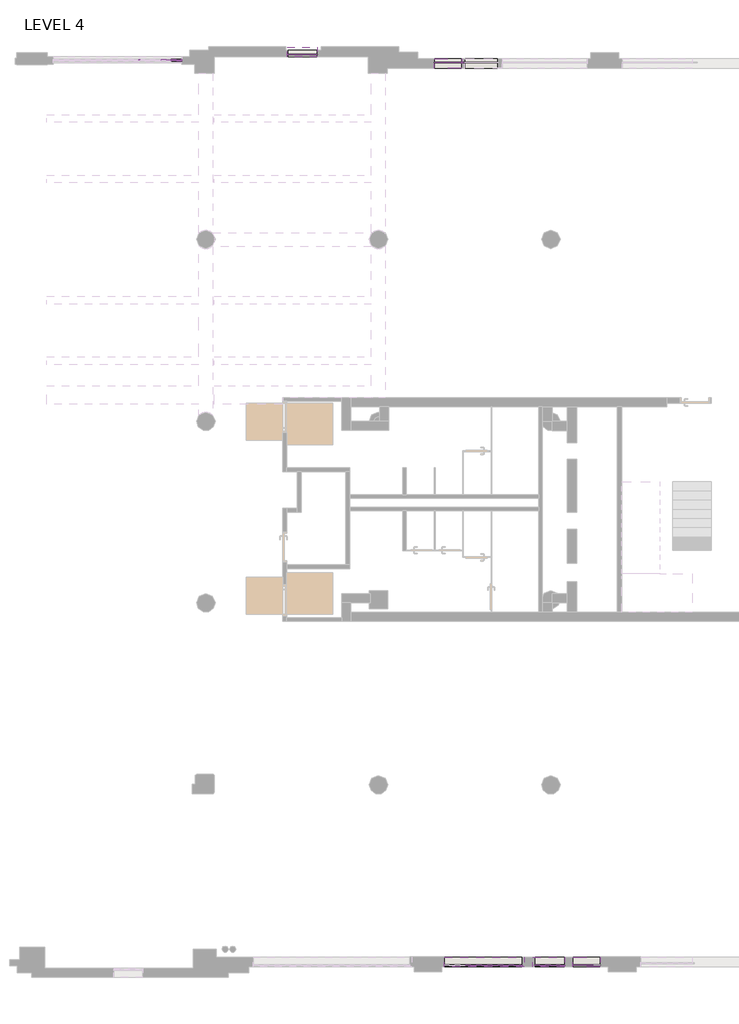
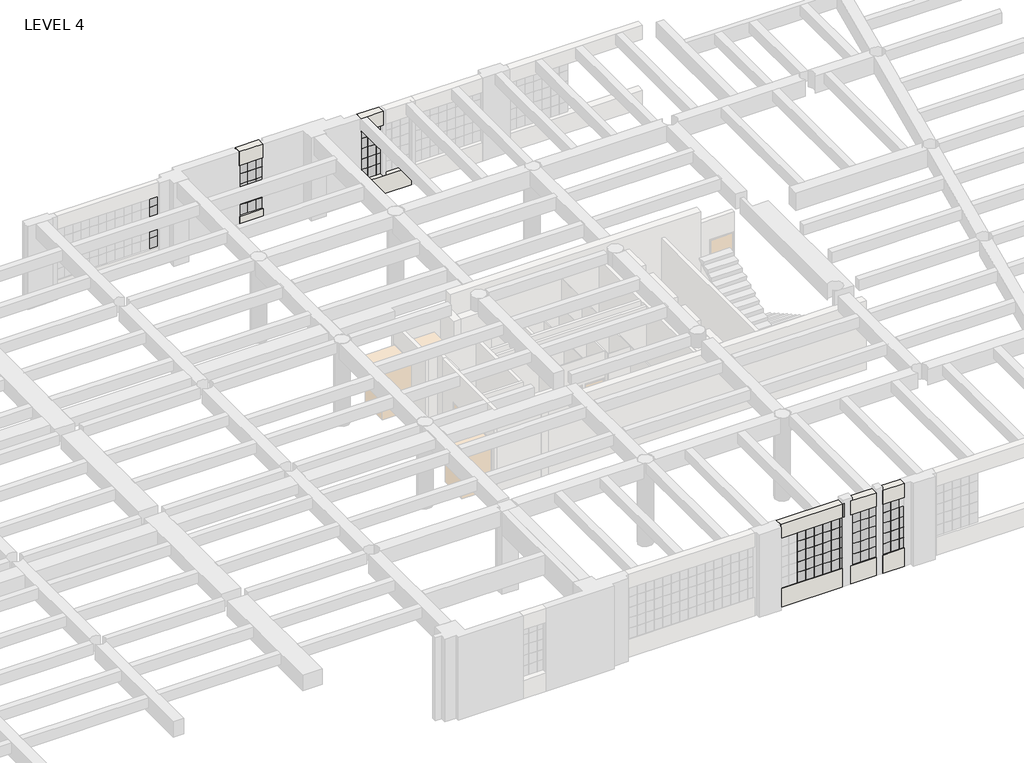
# One storey, part 15 of 26: 94 plates, 24 members, 10 walls.
"""IFC4 building model written with IfcOpenShell, lengths in millimetres."""

from ifc_helpers import new_model, si_unit, frame, origin, origin_with_axes, place, context, project, spatial, polyline, outline, extrude, faceted_brep, transform, mapped, element, save
from components import member_038dcf1c, member_0e6c94ff, member_d9fec558, member_3d4b608b, member_3c10d71f, member_653bb31e, member_5debf6c2, member_223704e7, system_panel_glazed_ab35d819, system_panel_glazed_fc65e113, system_panel_glazed_c5f20988, system_panel_glazed_656c6057, system_panel_glazed_f37bcc86, system_panel_glazed_3b610fd6, system_panel_glazed_d2b05c01, system_panel_glazed_cec7f4a6, system_panel_glazed_418eb6cd, system_panel_glazed_dc7be1f0, system_panel_glazed_b93c52a1, system_panel_glazed_71b59b5f, system_panel_glazed_0f17cebf, system_panel_glazed_44deb75c, system_panel_glazed_e3287ea6

model = new_model("IFC4")

# Units and contexts
model_context = context("Model", 3, world=origin())
ifc_project = project(units=[si_unit("LENGTHUNIT", "METRE", prefix="MILLI")], contexts=[model_context])

# Site, building, storey
site = spatial("IfcSite", under=ifc_project)
building = spatial("IfcBuilding", under=site)
storey = spatial("IfcBuildingStorey", under=building, Name="LEVEL 4", Elevation=0.0)

# Members
placement = place(None, origin())
member_shape = member_038dcf1c(model_context)
element("IfcMember", 1, ObjectType="Circular Mullion : 1 1/4\" Square", at=placement, inside=storey, context=model_context, shape_type="MappedRepresentation", body=[
    mapped(member_shape, transform((-9539.3085473, 117287.443307, 1257.3), x_axis=(1.0, 0.0, 0.0), y_axis=(0.0, -1.0, 0.0), z_axis=(0.0, 0.0, -1.0))),
])
element("IfcMember", 2, ObjectType="Circular Mullion : 1 1/4\" Square", at=placement, inside=storey, context=model_context, shape_type="MappedRepresentation", body=[
    mapped(member_shape, transform((-9539.3085473, 117287.443307, 1714.5), x_axis=(1.0, 0.0, 0.0), y_axis=(0.0, -1.0, 0.0), z_axis=(0.0, 0.0, -1.0))),
])
element("IfcMember", 3, ObjectType="Circular Mullion : 1 1/4\" Square", at=placement, inside=storey, context=model_context, shape_type="MappedRepresentation", body=[
    mapped(member_shape, transform((-9539.3085473, 117287.443307, 2171.7), x_axis=(1.0, 0.0, 0.0), y_axis=(0.0, -1.0, 0.0), z_axis=(0.0, 0.0, -1.0))),
])
element("IfcMember", 4, ObjectType="Circular Mullion : 1 1/4\" Square", at=placement, inside=storey, context=model_context, shape_type="MappedRepresentation", body=[
    mapped(member_shape, transform((-9539.3085473, 117287.443307, 800.1), x_axis=(1.0, 0.0, 0.0), y_axis=(0.0, -1.0, 0.0), z_axis=(0.0, 0.0, -1.0))),
])
member_2_shape = member_0e6c94ff(model_context)
element("IfcMember", 5, ObjectType="Circular Mullion : 1 1/4\" Square", at=placement, inside=storey, context=model_context, shape_type="MappedRepresentation", body=[
    mapped(member_2_shape, transform((-9539.3085473, 117287.443307, 2628.9), x_axis=(1.0, 0.0, 0.0), y_axis=(0.0, -1.0, 0.0), z_axis=(0.0, 0.0, -1.0))),
])
member_3_shape = member_d9fec558(model_context)
element("IfcMember", 6, ObjectType="Circular Mullion : 1 1/4\" Square", at=placement, inside=storey, context=model_context, shape_type="MappedRepresentation", body=[
    mapped(member_3_shape, transform((-9882.208547, 117287.443307, 2628.9), x_axis=(1.0, 0.0, 0.0), y_axis=(0.0, -1.0, 0.0), z_axis=(0.0, 0.0, -1.0))),
])
element("IfcMember", 7, ObjectType="Circular Mullion : 1 1/4\" Square", at=placement, inside=storey, context=model_context, shape_type="MappedRepresentation", body=[
    mapped(member_3_shape, transform((-10949.008547, 117287.443307, 2628.9), x_axis=(1.0, 0.0, 0.0), y_axis=(0.0, -1.0, 0.0), z_axis=(0.0, 0.0, -1.0))),
])
member_4_shape = member_3d4b608b(model_context)
element("IfcMember", 8, ObjectType="Circular Mullion : 1 1/4\" Square", at=placement, inside=storey, context=model_context, shape_type="MappedRepresentation", body=[
    mapped(member_4_shape, transform((-9882.208547, 117287.443307, 1257.3), x_axis=(1.0, 0.0, 0.0), y_axis=(0.0, -1.0, 0.0), z_axis=(0.0, 0.0, -1.0))),
])
element("IfcMember", 9, ObjectType="Circular Mullion : 1 1/4\" Square", at=placement, inside=storey, context=model_context, shape_type="MappedRepresentation", body=[
    mapped(member_4_shape, transform((-9882.208547, 117287.443307, 1714.5), x_axis=(1.0, 0.0, 0.0), y_axis=(0.0, -1.0, 0.0), z_axis=(0.0, 0.0, -1.0))),
])
element("IfcMember", 10, ObjectType="Circular Mullion : 1 1/4\" Square", at=placement, inside=storey, context=model_context, shape_type="MappedRepresentation", body=[
    mapped(member_4_shape, transform((-9882.208547, 117287.443307, 2171.7), x_axis=(1.0, 0.0, 0.0), y_axis=(0.0, -1.0, 0.0), z_axis=(0.0, 0.0, -1.0))),
])
element("IfcMember", 11, ObjectType="Circular Mullion : 1 1/4\" Square", at=placement, inside=storey, context=model_context, shape_type="MappedRepresentation", body=[
    mapped(member_4_shape, transform((-10949.008547, 117287.443307, 1714.5), x_axis=(1.0, 0.0, 0.0), y_axis=(0.0, -1.0, 0.0), z_axis=(0.0, 0.0, -1.0))),
])
element("IfcMember", 12, ObjectType="Circular Mullion : 1 1/4\" Square", at=placement, inside=storey, context=model_context, shape_type="MappedRepresentation", body=[
    mapped(member_4_shape, transform((-10949.008547, 117287.443307, 2171.7), x_axis=(1.0, 0.0, 0.0), y_axis=(0.0, -1.0, 0.0), z_axis=(0.0, 0.0, -1.0))),
])
element("IfcMember", 13, ObjectType="Circular Mullion : 1 1/4\" Square", at=placement, inside=storey, context=model_context, shape_type="MappedRepresentation", body=[
    mapped(member_4_shape, transform((-9882.208547, 117287.443307, 800.1), x_axis=(1.0, 0.0, 0.0), y_axis=(0.0, -1.0, 0.0), z_axis=(0.0, 0.0, -1.0))),
])
member_5_shape = member_3c10d71f(model_context)
element("IfcMember", 14, ObjectType="Circular Mullion : 1 1/4\" Square", at=placement, inside=storey, context=model_context, shape_type="MappedRepresentation", body=[
    mapped(member_5_shape, transform((-9894.908547, 117287.443307, 3060.7), x_axis=(0.0, 0.0, 1.0), y_axis=(0.0, -1.0, 0.0), z_axis=(1.0, 0.0, 0.0))),
])
member_6_shape = member_653bb31e(model_context)
element("IfcMember", 15, ObjectType="Circular Mullion : 1 1/4\" Square", at=placement, inside=storey, context=model_context, shape_type="MappedRepresentation", body=[
    mapped(member_6_shape, transform((-9894.908547, 117287.443307, 1257.3), x_axis=(0.0, 0.0, 1.0), y_axis=(0.0, -1.0, 0.0), z_axis=(1.0, 0.0, 0.0))),
])
element("IfcMember", 16, ObjectType="Circular Mullion : 1 1/4\" Square", at=placement, inside=storey, context=model_context, shape_type="MappedRepresentation", body=[
    mapped(member_6_shape, transform((-9894.908547, 117287.443307, 1714.5), x_axis=(0.0, 0.0, 1.0), y_axis=(0.0, -1.0, 0.0), z_axis=(1.0, 0.0, 0.0))),
])
element("IfcMember", 17, ObjectType="Circular Mullion : 1 1/4\" Square", at=placement, inside=storey, context=model_context, shape_type="MappedRepresentation", body=[
    mapped(member_6_shape, transform((-9894.908547, 117287.443307, 2171.7), x_axis=(0.0, 0.0, 1.0), y_axis=(0.0, -1.0, 0.0), z_axis=(1.0, 0.0, 0.0))),
])
element("IfcMember", 18, ObjectType="Circular Mullion : 1 1/4\" Square", at=placement, inside=storey, context=model_context, shape_type="MappedRepresentation", body=[
    mapped(member_6_shape, transform((-9894.908547, 117287.443307, 2628.9), x_axis=(0.0, 0.0, 1.0), y_axis=(0.0, -1.0, 0.0), z_axis=(1.0, 0.0, 0.0))),
])
member_7_shape = member_5debf6c2(model_context)
element("IfcMember", 19, ObjectType="Circular Mullion : 1 1/4\" Square", at=placement, inside=storey, context=model_context, shape_type="MappedRepresentation", body=[
    mapped(member_7_shape, transform((-9564.7085473, 117287.443307, 3060.7), x_axis=(0.0, 0.0, 1.0), y_axis=(0.0, -1.0, 0.0), z_axis=(1.0, 0.0, 0.0))),
])
member_8_shape = member_223704e7(model_context)
element("IfcMember", 20, ObjectType="Circular Mullion : 1 1/4\" Square", at=placement, inside=storey, context=model_context, shape_type="MappedRepresentation", body=[
    mapped(member_8_shape, transform((-9564.7085473, 117287.443307, 1257.3), x_axis=(0.0, 0.0, 1.0), y_axis=(0.0, -1.0, 0.0), z_axis=(1.0, 0.0, 0.0))),
])
element("IfcMember", 21, ObjectType="Circular Mullion : 1 1/4\" Square", at=placement, inside=storey, context=model_context, shape_type="MappedRepresentation", body=[
    mapped(member_8_shape, transform((-9564.7085473, 117287.443307, 1714.5), x_axis=(0.0, 0.0, 1.0), y_axis=(0.0, -1.0, 0.0), z_axis=(1.0, 0.0, 0.0))),
])
element("IfcMember", 22, ObjectType="Circular Mullion : 1 1/4\" Square", at=placement, inside=storey, context=model_context, shape_type="MappedRepresentation", body=[
    mapped(member_8_shape, transform((-9564.7085473, 117287.443307, 2171.7), x_axis=(0.0, 0.0, 1.0), y_axis=(0.0, -1.0, 0.0), z_axis=(1.0, 0.0, 0.0))),
])
element("IfcMember", 23, ObjectType="Circular Mullion : 1 1/4\" Square", at=placement, inside=storey, context=model_context, shape_type="MappedRepresentation", body=[
    mapped(member_8_shape, transform((-9564.7085473, 117287.443307, 2628.9), x_axis=(0.0, 0.0, 1.0), y_axis=(0.0, -1.0, 0.0), z_axis=(1.0, 0.0, 0.0))),
])
element("IfcMember", 24, ObjectType="Circular Mullion : 1 1/4\" Square", at=placement, inside=storey, context=model_context, shape_type="MappedRepresentation", body=[
    mapped(member_7_shape, transform((-9869.508547, 117287.443307, 800.1), x_axis=(0.0, 0.0, -1.0), y_axis=(0.0, -1.0, 0.0), z_axis=(-1.0, 0.0, 0.0))),
])

# Plates
system_panel_glazed_shape = system_panel_glazed_ab35d819(model_context)
element("IfcPlate", 25, ObjectType="System Panel : Glazed", at=placement, inside=storey, context=model_context, shape_type="MappedRepresentation", body=[
    mapped(system_panel_glazed_shape, transform((-5856.3085471, 117490.643307, 800.1), x_axis=(1.0, 0.0, 0.0), y_axis=(0.0, 1.0, 0.0), z_axis=(0.0, 0.0, 1.0))),
])
element("IfcPlate", 26, ObjectType="System Panel : Glazed", at=placement, inside=storey, context=model_context, shape_type="MappedRepresentation", body=[
    mapped(system_panel_glazed_shape, transform((2328.8414529, 87317.5397286, 800.1), x_axis=(1.0, 0.0, 0.0), y_axis=(0.0, 1.0, 0.0), z_axis=(0.0, 0.0, 1.0))),
])
element("IfcPlate", 27, ObjectType="System Panel : Glazed", at=placement, inside=storey, context=model_context, shape_type="MappedRepresentation", body=[
    mapped(system_panel_glazed_shape, transform((3598.8414529, 87323.8897286, 800.1), x_axis=(1.0, 0.0, 0.0), y_axis=(0.0, 1.0, 0.0), z_axis=(0.0, 0.0, 1.0))),
])
element("IfcPlate", 28, ObjectType="System Panel : Glazed", at=placement, inside=storey, context=model_context, shape_type="MappedRepresentation", body=[
    mapped(system_panel_glazed_shape, transform((-5500.708547, 117490.643307, 800.1), x_axis=(1.0, 0.0, 0.0), y_axis=(0.0, 1.0, 0.0), z_axis=(0.0, 0.0, 1.0))),
])
element("IfcPlate", 29, ObjectType="System Panel : Glazed", at=placement, inside=storey, context=model_context, shape_type="MappedRepresentation", body=[
    mapped(system_panel_glazed_shape, transform((-5856.3085471, 117490.643307, 1257.3), x_axis=(1.0, 0.0, 0.0), y_axis=(0.0, 1.0, 0.0), z_axis=(0.0, 0.0, 1.0))),
])
element("IfcPlate", 30, ObjectType="System Panel : Glazed", at=placement, inside=storey, context=model_context, shape_type="MappedRepresentation", body=[
    mapped(system_panel_glazed_shape, transform((-5500.708547, 117490.643307, 1257.3), x_axis=(1.0, 0.0, 0.0), y_axis=(0.0, 1.0, 0.0), z_axis=(0.0, 0.0, 1.0))),
])
element("IfcPlate", 31, ObjectType="System Panel : Glazed", at=placement, inside=storey, context=model_context, shape_type="MappedRepresentation", body=[
    mapped(system_panel_glazed_shape, transform((-5856.3085471, 117490.643307, 1714.5), x_axis=(1.0, 0.0, 0.0), y_axis=(0.0, 1.0, 0.0), z_axis=(0.0, 0.0, 1.0))),
])
element("IfcPlate", 32, ObjectType="System Panel : Glazed", at=placement, inside=storey, context=model_context, shape_type="MappedRepresentation", body=[
    mapped(system_panel_glazed_shape, transform((-5500.708547, 117490.643307, 1714.5), x_axis=(1.0, 0.0, 0.0), y_axis=(0.0, 1.0, 0.0), z_axis=(0.0, 0.0, 1.0))),
])
element("IfcPlate", 33, ObjectType="System Panel : Glazed", at=placement, inside=storey, context=model_context, shape_type="MappedRepresentation", body=[
    mapped(system_panel_glazed_shape, transform((-5856.3085471, 117490.643307, 2171.7), x_axis=(1.0, 0.0, 0.0), y_axis=(0.0, 1.0, 0.0), z_axis=(0.0, 0.0, 1.0))),
])
element("IfcPlate", 34, ObjectType="System Panel : Glazed", at=placement, inside=storey, context=model_context, shape_type="MappedRepresentation", body=[
    mapped(system_panel_glazed_shape, transform((-5500.708547, 117490.643307, 2171.7), x_axis=(1.0, 0.0, 0.0), y_axis=(0.0, 1.0, 0.0), z_axis=(0.0, 0.0, 1.0))),
])
element("IfcPlate", 35, ObjectType="System Panel : Glazed", at=placement, inside=storey, context=model_context, shape_type="MappedRepresentation", body=[
    mapped(system_panel_glazed_shape, transform((1464.8230627, 87317.5397286, 800.1), x_axis=(1.0, 0.0, 0.0), y_axis=(0.0, 1.0, 0.0), z_axis=(0.0, 0.0, 1.0))),
])
element("IfcPlate", 36, ObjectType="System Panel : Glazed", at=placement, inside=storey, context=model_context, shape_type="MappedRepresentation", body=[
    mapped(system_panel_glazed_shape, transform((1109.2230627, 87317.5397286, 800.1), x_axis=(1.0, 0.0, 0.0), y_axis=(0.0, 1.0, 0.0), z_axis=(0.0, 0.0, 1.0))),
])
element("IfcPlate", 37, ObjectType="System Panel : Glazed", at=placement, inside=storey, context=model_context, shape_type="MappedRepresentation", body=[
    mapped(system_panel_glazed_shape, transform((753.6230627, 87317.5397286, 800.1), x_axis=(1.0, 0.0, 0.0), y_axis=(0.0, 1.0, 0.0), z_axis=(0.0, 0.0, 1.0))),
])
element("IfcPlate", 38, ObjectType="System Panel : Glazed", at=placement, inside=storey, context=model_context, shape_type="MappedRepresentation", body=[
    mapped(system_panel_glazed_shape, transform((398.0230627, 87317.5397286, 800.1), x_axis=(1.0, 0.0, 0.0), y_axis=(0.0, 1.0, 0.0), z_axis=(0.0, 0.0, 1.0))),
])
element("IfcPlate", 39, ObjectType="System Panel : Glazed", at=placement, inside=storey, context=model_context, shape_type="MappedRepresentation", body=[
    mapped(system_panel_glazed_shape, transform((1464.8230627, 87317.5397286, 1257.3), x_axis=(1.0, 0.0, 0.0), y_axis=(0.0, 1.0, 0.0), z_axis=(0.0, 0.0, 1.0))),
])
element("IfcPlate", 40, ObjectType="System Panel : Glazed", at=placement, inside=storey, context=model_context, shape_type="MappedRepresentation", body=[
    mapped(system_panel_glazed_shape, transform((1109.2230627, 87317.5397286, 1257.3), x_axis=(1.0, 0.0, 0.0), y_axis=(0.0, 1.0, 0.0), z_axis=(0.0, 0.0, 1.0))),
])
element("IfcPlate", 41, ObjectType="System Panel : Glazed", at=placement, inside=storey, context=model_context, shape_type="MappedRepresentation", body=[
    mapped(system_panel_glazed_shape, transform((753.6230627, 87317.5397286, 1257.3), x_axis=(1.0, 0.0, 0.0), y_axis=(0.0, 1.0, 0.0), z_axis=(0.0, 0.0, 1.0))),
])
element("IfcPlate", 42, ObjectType="System Panel : Glazed", at=placement, inside=storey, context=model_context, shape_type="MappedRepresentation", body=[
    mapped(system_panel_glazed_shape, transform((398.0230627, 87317.5397286, 1257.3), x_axis=(1.0, 0.0, 0.0), y_axis=(0.0, 1.0, 0.0), z_axis=(0.0, 0.0, 1.0))),
])
element("IfcPlate", 43, ObjectType="System Panel : Glazed", at=placement, inside=storey, context=model_context, shape_type="MappedRepresentation", body=[
    mapped(system_panel_glazed_shape, transform((1464.8230627, 87317.5397286, 1714.5), x_axis=(1.0, 0.0, 0.0), y_axis=(0.0, 1.0, 0.0), z_axis=(0.0, 0.0, 1.0))),
])
element("IfcPlate", 44, ObjectType="System Panel : Glazed", at=placement, inside=storey, context=model_context, shape_type="MappedRepresentation", body=[
    mapped(system_panel_glazed_shape, transform((1109.2230627, 87317.5397286, 1714.5), x_axis=(1.0, 0.0, 0.0), y_axis=(0.0, 1.0, 0.0), z_axis=(0.0, 0.0, 1.0))),
])
element("IfcPlate", 45, ObjectType="System Panel : Glazed", at=placement, inside=storey, context=model_context, shape_type="MappedRepresentation", body=[
    mapped(system_panel_glazed_shape, transform((753.6230627, 87317.5397286, 1714.5), x_axis=(1.0, 0.0, 0.0), y_axis=(0.0, 1.0, 0.0), z_axis=(0.0, 0.0, 1.0))),
])
element("IfcPlate", 46, ObjectType="System Panel : Glazed", at=placement, inside=storey, context=model_context, shape_type="MappedRepresentation", body=[
    mapped(system_panel_glazed_shape, transform((398.0230627, 87317.5397286, 1714.5), x_axis=(1.0, 0.0, 0.0), y_axis=(0.0, 1.0, 0.0), z_axis=(0.0, 0.0, 1.0))),
])
element("IfcPlate", 47, ObjectType="System Panel : Glazed", at=placement, inside=storey, context=model_context, shape_type="MappedRepresentation", body=[
    mapped(system_panel_glazed_shape, transform((1464.8230627, 87317.5397286, 2171.7), x_axis=(1.0, 0.0, 0.0), y_axis=(0.0, 1.0, 0.0), z_axis=(0.0, 0.0, 1.0))),
])
element("IfcPlate", 48, ObjectType="System Panel : Glazed", at=placement, inside=storey, context=model_context, shape_type="MappedRepresentation", body=[
    mapped(system_panel_glazed_shape, transform((1109.2230627, 87317.5397286, 2171.7), x_axis=(1.0, 0.0, 0.0), y_axis=(0.0, 1.0, 0.0), z_axis=(0.0, 0.0, 1.0))),
])
element("IfcPlate", 49, ObjectType="System Panel : Glazed", at=placement, inside=storey, context=model_context, shape_type="MappedRepresentation", body=[
    mapped(system_panel_glazed_shape, transform((753.6230627, 87317.5397286, 2171.7), x_axis=(1.0, 0.0, 0.0), y_axis=(0.0, 1.0, 0.0), z_axis=(0.0, 0.0, 1.0))),
])
element("IfcPlate", 50, ObjectType="System Panel : Glazed", at=placement, inside=storey, context=model_context, shape_type="MappedRepresentation", body=[
    mapped(system_panel_glazed_shape, transform((398.0230627, 87317.5397286, 2171.7), x_axis=(1.0, 0.0, 0.0), y_axis=(0.0, 1.0, 0.0), z_axis=(0.0, 0.0, 1.0))),
])
element("IfcPlate", 51, ObjectType="System Panel : Glazed", at=placement, inside=storey, context=model_context, shape_type="MappedRepresentation", body=[
    mapped(system_panel_glazed_shape, transform((2684.441453, 87317.5397286, 800.1), x_axis=(1.0, 0.0, 0.0), y_axis=(0.0, 1.0, 0.0), z_axis=(0.0, 0.0, 1.0))),
])
element("IfcPlate", 52, ObjectType="System Panel : Glazed", at=placement, inside=storey, context=model_context, shape_type="MappedRepresentation", body=[
    mapped(system_panel_glazed_shape, transform((2328.8414529, 87317.5397286, 1257.3), x_axis=(1.0, 0.0, 0.0), y_axis=(0.0, 1.0, 0.0), z_axis=(0.0, 0.0, 1.0))),
])
element("IfcPlate", 53, ObjectType="System Panel : Glazed", at=placement, inside=storey, context=model_context, shape_type="MappedRepresentation", body=[
    mapped(system_panel_glazed_shape, transform((2684.441453, 87317.5397286, 1257.3), x_axis=(1.0, 0.0, 0.0), y_axis=(0.0, 1.0, 0.0), z_axis=(0.0, 0.0, 1.0))),
])
element("IfcPlate", 54, ObjectType="System Panel : Glazed", at=placement, inside=storey, context=model_context, shape_type="MappedRepresentation", body=[
    mapped(system_panel_glazed_shape, transform((2328.8414529, 87317.5397286, 1714.5), x_axis=(1.0, 0.0, 0.0), y_axis=(0.0, 1.0, 0.0), z_axis=(0.0, 0.0, 1.0))),
])
element("IfcPlate", 55, ObjectType="System Panel : Glazed", at=placement, inside=storey, context=model_context, shape_type="MappedRepresentation", body=[
    mapped(system_panel_glazed_shape, transform((2684.441453, 87317.5397286, 1714.5), x_axis=(1.0, 0.0, 0.0), y_axis=(0.0, 1.0, 0.0), z_axis=(0.0, 0.0, 1.0))),
])
element("IfcPlate", 56, ObjectType="System Panel : Glazed", at=placement, inside=storey, context=model_context, shape_type="MappedRepresentation", body=[
    mapped(system_panel_glazed_shape, transform((2328.8414529, 87317.5397286, 2171.7), x_axis=(1.0, 0.0, 0.0), y_axis=(0.0, 1.0, 0.0), z_axis=(0.0, 0.0, 1.0))),
])
element("IfcPlate", 57, ObjectType="System Panel : Glazed", at=placement, inside=storey, context=model_context, shape_type="MappedRepresentation", body=[
    mapped(system_panel_glazed_shape, transform((2684.441453, 87317.5397286, 2171.7), x_axis=(1.0, 0.0, 0.0), y_axis=(0.0, 1.0, 0.0), z_axis=(0.0, 0.0, 1.0))),
])
element("IfcPlate", 58, ObjectType="System Panel : Glazed", at=placement, inside=storey, context=model_context, shape_type="MappedRepresentation", body=[
    mapped(system_panel_glazed_shape, transform((3598.8414529, 87323.8897286, 1257.3), x_axis=(1.0, 0.0, 0.0), y_axis=(0.0, 1.0, 0.0), z_axis=(0.0, 0.0, 1.0))),
])
element("IfcPlate", 59, ObjectType="System Panel : Glazed", at=placement, inside=storey, context=model_context, shape_type="MappedRepresentation", body=[
    mapped(system_panel_glazed_shape, transform((3598.8414529, 87323.8897286, 1714.5), x_axis=(1.0, 0.0, 0.0), y_axis=(0.0, 1.0, 0.0), z_axis=(0.0, 0.0, 1.0))),
])
element("IfcPlate", 60, ObjectType="System Panel : Glazed", at=placement, inside=storey, context=model_context, shape_type="MappedRepresentation", body=[
    mapped(system_panel_glazed_shape, transform((3598.8414529, 87323.8897286, 2171.7), x_axis=(1.0, 0.0, 0.0), y_axis=(0.0, 1.0, 0.0), z_axis=(0.0, 0.0, 1.0))),
])
element("IfcPlate", 61, ObjectType="System Panel : Glazed", at=placement, inside=storey, context=model_context, shape_type="MappedRepresentation", body=[
    mapped(system_panel_glazed_shape, transform((42.4230627, 87317.5397286, 800.1), x_axis=(1.0, 0.0, 0.0), y_axis=(0.0, 1.0, 0.0), z_axis=(0.0, 0.0, 1.0))),
])
element("IfcPlate", 62, ObjectType="System Panel : Glazed", at=placement, inside=storey, context=model_context, shape_type="MappedRepresentation", body=[
    mapped(system_panel_glazed_shape, transform((42.4230627, 87317.5397286, 1257.3), x_axis=(1.0, 0.0, 0.0), y_axis=(0.0, 1.0, 0.0), z_axis=(0.0, 0.0, 1.0))),
])
element("IfcPlate", 63, ObjectType="System Panel : Glazed", at=placement, inside=storey, context=model_context, shape_type="MappedRepresentation", body=[
    mapped(system_panel_glazed_shape, transform((42.4230627, 87317.5397286, 1714.5), x_axis=(1.0, 0.0, 0.0), y_axis=(0.0, 1.0, 0.0), z_axis=(0.0, 0.0, 1.0))),
])
element("IfcPlate", 64, ObjectType="System Panel : Glazed", at=placement, inside=storey, context=model_context, shape_type="MappedRepresentation", body=[
    mapped(system_panel_glazed_shape, transform((42.4230627, 87317.5397286, 2171.7), x_axis=(1.0, 0.0, 0.0), y_axis=(0.0, 1.0, 0.0), z_axis=(0.0, 0.0, 1.0))),
])
element("IfcPlate", 65, ObjectType="System Panel : Glazed", at=placement, inside=storey, context=model_context, shape_type="MappedRepresentation", body=[
    mapped(system_panel_glazed_shape, transform((3954.441453, 87323.8897286, 800.1), x_axis=(1.0, 0.0, 0.0), y_axis=(0.0, 1.0, 0.0), z_axis=(0.0, 0.0, 1.0))),
])
element("IfcPlate", 66, ObjectType="System Panel : Glazed", at=placement, inside=storey, context=model_context, shape_type="MappedRepresentation", body=[
    mapped(system_panel_glazed_shape, transform((3954.441453, 87323.8897286, 1257.3), x_axis=(1.0, 0.0, 0.0), y_axis=(0.0, 1.0, 0.0), z_axis=(0.0, 0.0, 1.0))),
])
element("IfcPlate", 67, ObjectType="System Panel : Glazed", at=placement, inside=storey, context=model_context, shape_type="MappedRepresentation", body=[
    mapped(system_panel_glazed_shape, transform((3954.441453, 87323.8897286, 1714.5), x_axis=(1.0, 0.0, 0.0), y_axis=(0.0, 1.0, 0.0), z_axis=(0.0, 0.0, 1.0))),
])
element("IfcPlate", 68, ObjectType="System Panel : Glazed", at=placement, inside=storey, context=model_context, shape_type="MappedRepresentation", body=[
    mapped(system_panel_glazed_shape, transform((3954.441453, 87323.8897286, 2171.7), x_axis=(1.0, 0.0, 0.0), y_axis=(0.0, 1.0, 0.0), z_axis=(0.0, 0.0, 1.0))),
])
system_panel_glazed_2_shape = system_panel_glazed_fc65e113(model_context)
element("IfcPlate", 69, ObjectType="System Panel : Glazed", at=placement, inside=storey, context=model_context, shape_type="MappedRepresentation", body=[
    mapped(system_panel_glazed_2_shape, transform((-9710.7585471, 117287.443307, 800.1), x_axis=(1.0, 0.0, 0.0), y_axis=(0.0, 1.0, 0.0), z_axis=(0.0, 0.0, 1.0))),
])
element("IfcPlate", 70, ObjectType="System Panel : Glazed", at=placement, inside=storey, context=model_context, shape_type="MappedRepresentation", body=[
    mapped(system_panel_glazed_2_shape, transform((-9710.7585471, 117287.443307, 1257.3), x_axis=(1.0, 0.0, 0.0), y_axis=(0.0, 1.0, 0.0), z_axis=(0.0, 0.0, 1.0))),
])
element("IfcPlate", 71, ObjectType="System Panel : Glazed", at=placement, inside=storey, context=model_context, shape_type="MappedRepresentation", body=[
    mapped(system_panel_glazed_2_shape, transform((-9710.7585471, 117287.443307, 1714.5), x_axis=(1.0, 0.0, 0.0), y_axis=(0.0, 1.0, 0.0), z_axis=(0.0, 0.0, 1.0))),
])
element("IfcPlate", 72, ObjectType="System Panel : Glazed", at=placement, inside=storey, context=model_context, shape_type="MappedRepresentation", body=[
    mapped(system_panel_glazed_2_shape, transform((-9710.7585471, 117287.443307, 2171.7), x_axis=(1.0, 0.0, 0.0), y_axis=(0.0, 1.0, 0.0), z_axis=(0.0, 0.0, 1.0))),
])
system_panel_glazed_3_shape = system_panel_glazed_c5f20988(model_context)
element("IfcPlate", 73, ObjectType="System Panel : Glazed", at=placement, inside=storey, context=model_context, shape_type="MappedRepresentation", body=[
    mapped(system_panel_glazed_3_shape, transform((1693.6322577, 87317.5397286, 800.1), x_axis=(1.0, 0.0, 0.0), y_axis=(0.0, 1.0, 0.0), z_axis=(0.0, 0.0, 1.0))),
])
element("IfcPlate", 74, ObjectType="System Panel : Glazed", at=placement, inside=storey, context=model_context, shape_type="MappedRepresentation", body=[
    mapped(system_panel_glazed_3_shape, transform((1693.6322577, 87317.5397286, 1257.3), x_axis=(1.0, 0.0, 0.0), y_axis=(0.0, 1.0, 0.0), z_axis=(0.0, 0.0, 1.0))),
])
element("IfcPlate", 75, ObjectType="System Panel : Glazed", at=placement, inside=storey, context=model_context, shape_type="MappedRepresentation", body=[
    mapped(system_panel_glazed_3_shape, transform((1693.6322577, 87317.5397286, 1714.5), x_axis=(1.0, 0.0, 0.0), y_axis=(0.0, 1.0, 0.0), z_axis=(0.0, 0.0, 1.0))),
])
element("IfcPlate", 76, ObjectType="System Panel : Glazed", at=placement, inside=storey, context=model_context, shape_type="MappedRepresentation", body=[
    mapped(system_panel_glazed_3_shape, transform((1693.6322577, 87317.5397286, 2171.7), x_axis=(1.0, 0.0, 0.0), y_axis=(0.0, 1.0, 0.0), z_axis=(0.0, 0.0, 1.0))),
])
system_panel_glazed_4_shape = system_panel_glazed_656c6057(model_context)
element("IfcPlate", 77, ObjectType="System Panel : Glazed", at=placement, inside=storey, context=model_context, shape_type="MappedRepresentation", body=[
    mapped(system_panel_glazed_4_shape, transform((-987.4460471, 117159.1044271, 800.1), x_axis=(1.0, 0.0, 0.0), y_axis=(0.0, 1.0, 0.0), z_axis=(0.0, 0.0, 1.0))),
])
element("IfcPlate", 78, ObjectType="System Panel : Glazed", at=placement, inside=storey, context=model_context, shape_type="MappedRepresentation", body=[
    mapped(system_panel_glazed_4_shape, transform((-631.846047, 117159.1044271, 800.1), x_axis=(1.0, 0.0, 0.0), y_axis=(0.0, 1.0, 0.0), z_axis=(0.0, 0.0, 1.0))),
])
element("IfcPlate", 79, ObjectType="System Panel : Glazed", at=placement, inside=storey, context=model_context, shape_type="MappedRepresentation", body=[
    mapped(system_panel_glazed_4_shape, transform((-987.4460471, 117159.1044271, 1257.3), x_axis=(1.0, 0.0, 0.0), y_axis=(0.0, 1.0, 0.0), z_axis=(0.0, 0.0, 1.0))),
])
element("IfcPlate", 80, ObjectType="System Panel : Glazed", at=placement, inside=storey, context=model_context, shape_type="MappedRepresentation", body=[
    mapped(system_panel_glazed_4_shape, transform((-631.846047, 117159.1044271, 1257.3), x_axis=(1.0, 0.0, 0.0), y_axis=(0.0, 1.0, 0.0), z_axis=(0.0, 0.0, 1.0))),
])
element("IfcPlate", 81, ObjectType="System Panel : Glazed", at=placement, inside=storey, context=model_context, shape_type="MappedRepresentation", body=[
    mapped(system_panel_glazed_4_shape, transform((-987.4460471, 117159.1044271, 1714.5), x_axis=(1.0, 0.0, 0.0), y_axis=(0.0, 1.0, 0.0), z_axis=(0.0, 0.0, 1.0))),
])
element("IfcPlate", 82, ObjectType="System Panel : Glazed", at=placement, inside=storey, context=model_context, shape_type="MappedRepresentation", body=[
    mapped(system_panel_glazed_4_shape, transform((-631.846047, 117159.1044271, 1714.5), x_axis=(1.0, 0.0, 0.0), y_axis=(0.0, 1.0, 0.0), z_axis=(0.0, 0.0, 1.0))),
])
element("IfcPlate", 83, ObjectType="System Panel : Glazed", at=placement, inside=storey, context=model_context, shape_type="MappedRepresentation", body=[
    mapped(system_panel_glazed_4_shape, transform((-987.4460471, 117159.1044271, 2171.7), x_axis=(1.0, 0.0, 0.0), y_axis=(0.0, 1.0, 0.0), z_axis=(0.0, 0.0, 1.0))),
])
element("IfcPlate", 84, ObjectType="System Panel : Glazed", at=placement, inside=storey, context=model_context, shape_type="MappedRepresentation", body=[
    mapped(system_panel_glazed_4_shape, transform((-631.846047, 117159.1044271, 2171.7), x_axis=(1.0, 0.0, 0.0), y_axis=(0.0, 1.0, 0.0), z_axis=(0.0, 0.0, 1.0))),
])
system_panel_glazed_5_shape = system_panel_glazed_f37bcc86(model_context)
element("IfcPlate", 85, ObjectType="System Panel : Glazed", at=placement, inside=storey, context=model_context, shape_type="MappedRepresentation", body=[
    mapped(system_panel_glazed_5_shape, transform((-5189.5585471, 117490.643307, 800.1), x_axis=(1.0, 0.0, 0.0), y_axis=(0.0, 1.0, 0.0), z_axis=(0.0, 0.0, 1.0))),
])
element("IfcPlate", 86, ObjectType="System Panel : Glazed", at=placement, inside=storey, context=model_context, shape_type="MappedRepresentation", body=[
    mapped(system_panel_glazed_5_shape, transform((-5189.5585471, 117490.643307, 1257.3), x_axis=(1.0, 0.0, 0.0), y_axis=(0.0, 1.0, 0.0), z_axis=(0.0, 0.0, 1.0))),
])
element("IfcPlate", 87, ObjectType="System Panel : Glazed", at=placement, inside=storey, context=model_context, shape_type="MappedRepresentation", body=[
    mapped(system_panel_glazed_5_shape, transform((-5189.5585471, 117490.643307, 1714.5), x_axis=(1.0, 0.0, 0.0), y_axis=(0.0, 1.0, 0.0), z_axis=(0.0, 0.0, 1.0))),
])
element("IfcPlate", 88, ObjectType="System Panel : Glazed", at=placement, inside=storey, context=model_context, shape_type="MappedRepresentation", body=[
    mapped(system_panel_glazed_5_shape, transform((-5189.5585471, 117490.643307, 2171.7), x_axis=(1.0, 0.0, 0.0), y_axis=(0.0, 1.0, 0.0), z_axis=(0.0, 0.0, 1.0))),
])
system_panel_glazed_6_shape = system_panel_glazed_3b610fd6(model_context)
element("IfcPlate", 89, ObjectType="System Panel : Glazed", at=placement, inside=storey, context=model_context, shape_type="MappedRepresentation", body=[
    mapped(system_panel_glazed_6_shape, transform((3008.2914529, 87317.5397286, 800.1), x_axis=(1.0, 0.0, 0.0), y_axis=(0.0, 1.0, 0.0), z_axis=(0.0, 0.0, 1.0))),
])
element("IfcPlate", 90, ObjectType="System Panel : Glazed", at=placement, inside=storey, context=model_context, shape_type="MappedRepresentation", body=[
    mapped(system_panel_glazed_6_shape, transform((3008.2914529, 87317.5397286, 1257.3), x_axis=(1.0, 0.0, 0.0), y_axis=(0.0, 1.0, 0.0), z_axis=(0.0, 0.0, 1.0))),
])
element("IfcPlate", 91, ObjectType="System Panel : Glazed", at=placement, inside=storey, context=model_context, shape_type="MappedRepresentation", body=[
    mapped(system_panel_glazed_6_shape, transform((3008.2914529, 87317.5397286, 1714.5), x_axis=(1.0, 0.0, 0.0), y_axis=(0.0, 1.0, 0.0), z_axis=(0.0, 0.0, 1.0))),
])
element("IfcPlate", 92, ObjectType="System Panel : Glazed", at=placement, inside=storey, context=model_context, shape_type="MappedRepresentation", body=[
    mapped(system_panel_glazed_6_shape, transform((3008.2914529, 87317.5397286, 2171.7), x_axis=(1.0, 0.0, 0.0), y_axis=(0.0, 1.0, 0.0), z_axis=(0.0, 0.0, 1.0))),
])
system_panel_glazed_7_shape = system_panel_glazed_d2b05c01(model_context)
element("IfcPlate", 93, ObjectType="System Panel : Glazed", at=placement, inside=storey, context=model_context, shape_type="MappedRepresentation", body=[
    mapped(system_panel_glazed_7_shape, transform((4227.7598431, 87323.8897286, 800.1), x_axis=(1.0, 0.0, 0.0), y_axis=(0.0, 1.0, 0.0), z_axis=(0.0, 0.0, 1.0))),
])
element("IfcPlate", 94, ObjectType="System Panel : Glazed", at=placement, inside=storey, context=model_context, shape_type="MappedRepresentation", body=[
    mapped(system_panel_glazed_7_shape, transform((4227.7598431, 87323.8897286, 1257.3), x_axis=(1.0, 0.0, 0.0), y_axis=(0.0, 1.0, 0.0), z_axis=(0.0, 0.0, 1.0))),
])
element("IfcPlate", 95, ObjectType="System Panel : Glazed", at=placement, inside=storey, context=model_context, shape_type="MappedRepresentation", body=[
    mapped(system_panel_glazed_7_shape, transform((4227.7598431, 87323.8897286, 1714.5), x_axis=(1.0, 0.0, 0.0), y_axis=(0.0, 1.0, 0.0), z_axis=(0.0, 0.0, 1.0))),
])
element("IfcPlate", 96, ObjectType="System Panel : Glazed", at=placement, inside=storey, context=model_context, shape_type="MappedRepresentation", body=[
    mapped(system_panel_glazed_7_shape, transform((4227.7598431, 87323.8897286, 2171.7), x_axis=(1.0, 0.0, 0.0), y_axis=(0.0, 1.0, 0.0), z_axis=(0.0, 0.0, 1.0))),
])
system_panel_glazed_8_shape = system_panel_glazed_cec7f4a6(model_context)
element("IfcPlate", 97, ObjectType="System Panel : Glazed", at=placement, inside=storey, context=model_context, shape_type="MappedRepresentation", body=[
    mapped(system_panel_glazed_8_shape, transform((-304.8210471, 117159.1044271, 800.1), x_axis=(1.0, 0.0, 0.0), y_axis=(0.0, 1.0, 0.0), z_axis=(0.0, 0.0, 1.0))),
])
element("IfcPlate", 98, ObjectType="System Panel : Glazed", at=placement, inside=storey, context=model_context, shape_type="MappedRepresentation", body=[
    mapped(system_panel_glazed_8_shape, transform((-304.8210471, 117159.1044271, 1257.3), x_axis=(1.0, 0.0, 0.0), y_axis=(0.0, 1.0, 0.0), z_axis=(0.0, 0.0, 1.0))),
])
element("IfcPlate", 99, ObjectType="System Panel : Glazed", at=placement, inside=storey, context=model_context, shape_type="MappedRepresentation", body=[
    mapped(system_panel_glazed_8_shape, transform((-304.8210471, 117159.1044271, 1714.5), x_axis=(1.0, 0.0, 0.0), y_axis=(0.0, 1.0, 0.0), z_axis=(0.0, 0.0, 1.0))),
])
element("IfcPlate", 100, ObjectType="System Panel : Glazed", at=placement, inside=storey, context=model_context, shape_type="MappedRepresentation", body=[
    mapped(system_panel_glazed_8_shape, transform((-304.8210471, 117159.1044271, 2171.7), x_axis=(1.0, 0.0, 0.0), y_axis=(0.0, 1.0, 0.0), z_axis=(0.0, 0.0, 1.0))),
])
system_panel_glazed_9_shape = system_panel_glazed_418eb6cd(model_context)
element("IfcPlate", 101, ObjectType="System Panel : Glazed", at=placement, inside=storey, context=model_context, shape_type="MappedRepresentation", body=[
    mapped(system_panel_glazed_9_shape, transform((-5856.3085471, 117490.643307, 2628.9), x_axis=(1.0, 0.0, 0.0), y_axis=(0.0, 1.0, 0.0), z_axis=(0.0, 0.0, 1.0))),
])
element("IfcPlate", 102, ObjectType="System Panel : Glazed", at=placement, inside=storey, context=model_context, shape_type="MappedRepresentation", body=[
    mapped(system_panel_glazed_9_shape, transform((-5500.708547, 117490.643307, 2628.9), x_axis=(1.0, 0.0, 0.0), y_axis=(0.0, 1.0, 0.0), z_axis=(0.0, 0.0, 1.0))),
])
element("IfcPlate", 103, ObjectType="System Panel : Glazed", at=placement, inside=storey, context=model_context, shape_type="MappedRepresentation", body=[
    mapped(system_panel_glazed_9_shape, transform((1464.8230627, 87317.5397286, 2628.9), x_axis=(1.0, 0.0, 0.0), y_axis=(0.0, 1.0, 0.0), z_axis=(0.0, 0.0, 1.0))),
])
element("IfcPlate", 104, ObjectType="System Panel : Glazed", at=placement, inside=storey, context=model_context, shape_type="MappedRepresentation", body=[
    mapped(system_panel_glazed_9_shape, transform((1109.2230627, 87317.5397286, 2628.9), x_axis=(1.0, 0.0, 0.0), y_axis=(0.0, 1.0, 0.0), z_axis=(0.0, 0.0, 1.0))),
])
element("IfcPlate", 105, ObjectType="System Panel : Glazed", at=placement, inside=storey, context=model_context, shape_type="MappedRepresentation", body=[
    mapped(system_panel_glazed_9_shape, transform((753.6230627, 87317.5397286, 2628.9), x_axis=(1.0, 0.0, 0.0), y_axis=(0.0, 1.0, 0.0), z_axis=(0.0, 0.0, 1.0))),
])
element("IfcPlate", 106, ObjectType="System Panel : Glazed", at=placement, inside=storey, context=model_context, shape_type="MappedRepresentation", body=[
    mapped(system_panel_glazed_9_shape, transform((398.0230627, 87317.5397286, 2628.9), x_axis=(1.0, 0.0, 0.0), y_axis=(0.0, 1.0, 0.0), z_axis=(0.0, 0.0, 1.0))),
])
element("IfcPlate", 107, ObjectType="System Panel : Glazed", at=placement, inside=storey, context=model_context, shape_type="MappedRepresentation", body=[
    mapped(system_panel_glazed_9_shape, transform((2328.8414529, 87317.5397286, 2628.9), x_axis=(1.0, 0.0, 0.0), y_axis=(0.0, 1.0, 0.0), z_axis=(0.0, 0.0, 1.0))),
])
element("IfcPlate", 108, ObjectType="System Panel : Glazed", at=placement, inside=storey, context=model_context, shape_type="MappedRepresentation", body=[
    mapped(system_panel_glazed_9_shape, transform((2684.441453, 87317.5397286, 2628.9), x_axis=(1.0, 0.0, 0.0), y_axis=(0.0, 1.0, 0.0), z_axis=(0.0, 0.0, 1.0))),
])
element("IfcPlate", 109, ObjectType="System Panel : Glazed", at=placement, inside=storey, context=model_context, shape_type="MappedRepresentation", body=[
    mapped(system_panel_glazed_9_shape, transform((3598.8414529, 87323.8897286, 2628.9), x_axis=(1.0, 0.0, 0.0), y_axis=(0.0, 1.0, 0.0), z_axis=(0.0, 0.0, 1.0))),
])
element("IfcPlate", 110, ObjectType="System Panel : Glazed", at=placement, inside=storey, context=model_context, shape_type="MappedRepresentation", body=[
    mapped(system_panel_glazed_9_shape, transform((42.4230627, 87317.5397286, 2628.9), x_axis=(1.0, 0.0, 0.0), y_axis=(0.0, 1.0, 0.0), z_axis=(0.0, 0.0, 1.0))),
])
element("IfcPlate", 111, ObjectType="System Panel : Glazed", at=placement, inside=storey, context=model_context, shape_type="MappedRepresentation", body=[
    mapped(system_panel_glazed_9_shape, transform((3954.441453, 87323.8897286, 2628.9), x_axis=(1.0, 0.0, 0.0), y_axis=(0.0, 1.0, 0.0), z_axis=(0.0, 0.0, 1.0))),
])
system_panel_glazed_10_shape = system_panel_glazed_dc7be1f0(model_context)
element("IfcPlate", 112, ObjectType="System Panel : Glazed", at=placement, inside=storey, context=model_context, shape_type="MappedRepresentation", body=[
    mapped(system_panel_glazed_10_shape, transform((-9710.7585471, 117287.443307, 2628.9), x_axis=(1.0, 0.0, 0.0), y_axis=(0.0, 1.0, 0.0), z_axis=(0.0, 0.0, 1.0))),
])
system_panel_glazed_11_shape = system_panel_glazed_b93c52a1(model_context)
element("IfcPlate", 113, ObjectType="System Panel : Glazed", at=placement, inside=storey, context=model_context, shape_type="MappedRepresentation", body=[
    mapped(system_panel_glazed_11_shape, transform((-5189.5585471, 117490.643307, 2628.9), x_axis=(1.0, 0.0, 0.0), y_axis=(0.0, 1.0, 0.0), z_axis=(0.0, 0.0, 1.0))),
])
system_panel_glazed_12_shape = system_panel_glazed_71b59b5f(model_context)
element("IfcPlate", 114, ObjectType="System Panel : Glazed", at=placement, inside=storey, context=model_context, shape_type="MappedRepresentation", body=[
    mapped(system_panel_glazed_12_shape, transform((1693.6322577, 87317.5397286, 2628.9), x_axis=(1.0, 0.0, 0.0), y_axis=(0.0, 1.0, 0.0), z_axis=(0.0, 0.0, 1.0))),
])
system_panel_glazed_13_shape = system_panel_glazed_0f17cebf(model_context)
element("IfcPlate", 115, ObjectType="System Panel : Glazed", at=placement, inside=storey, context=model_context, shape_type="MappedRepresentation", body=[
    mapped(system_panel_glazed_13_shape, transform((3008.2914529, 87317.5397286, 2628.9), x_axis=(1.0, 0.0, 0.0), y_axis=(0.0, 1.0, 0.0), z_axis=(0.0, 0.0, 1.0))),
])
system_panel_glazed_14_shape = system_panel_glazed_44deb75c(model_context)
element("IfcPlate", 116, ObjectType="System Panel : Glazed", at=placement, inside=storey, context=model_context, shape_type="MappedRepresentation", body=[
    mapped(system_panel_glazed_14_shape, transform((-987.4460471, 117159.1044271, 2628.9), x_axis=(1.0, 0.0, 0.0), y_axis=(0.0, 1.0, 0.0), z_axis=(0.0, 0.0, 1.0))),
])
element("IfcPlate", 117, ObjectType="System Panel : Glazed", at=placement, inside=storey, context=model_context, shape_type="MappedRepresentation", body=[
    mapped(system_panel_glazed_14_shape, transform((-631.846047, 117159.1044271, 2628.9), x_axis=(1.0, 0.0, 0.0), y_axis=(0.0, 1.0, 0.0), z_axis=(0.0, 0.0, 1.0))),
])
system_panel_glazed_15_shape = system_panel_glazed_e3287ea6(model_context)
element("IfcPlate", 118, ObjectType="System Panel : Glazed", at=placement, inside=storey, context=model_context, shape_type="MappedRepresentation", body=[
    mapped(system_panel_glazed_15_shape, transform((-304.8210471, 117159.1044271, 2628.9), x_axis=(1.0, 0.0, 0.0), y_axis=(0.0, 1.0, 0.0), z_axis=(0.0, 0.0, 1.0))),
])

# Walls
element("IfcWall", 119, ObjectType="_Generic - 12\"", at=placement, inside=storey, context=model_context, shape_type="SweptSolid", body=[
    extrude(outline(polyline([(1744.6414527, 87237.6589024), (-846.5769376, 87237.6589024), (-846.5769376, 87542.4589024), (1744.6414527, 87542.4589024), (1744.6414527, 87237.6589024)])), origin_with_axes(), (0.0, 0.0, 1.0), 800.1),
])
element("IfcWall", 120, ObjectType="_Generic - 12\"", at=placement, inside=storey, context=model_context, shape_type="SweptSolid", body=[
    extrude(outline(polyline([(3154.3414527, 87237.6589024), (2089.1289527, 87237.6589024), (2089.1289527, 87542.4589024), (3154.3414527, 87542.4589024), (3154.3414527, 87237.6589024)])), origin_with_axes(), (0.0, 0.0, 1.0), 800.1),
])
element("IfcWall", 121, ObjectType="_Generic - 12\"", at=placement, inside=storey, context=model_context, shape_type="SweptSolid", body=[
    extrude(outline(polyline([(4323.2782332, 87237.6589024), (3421.0414527, 87237.6589024), (3421.0414527, 87542.4589024), (4323.2782332, 87542.4589024), (4323.2782332, 87237.6589024)])), origin_with_axes(), (0.0, 0.0, 1.0), 800.1),
])
element("IfcWall", 122, ObjectType="_Generic - 12\"", at=placement, inside=storey, context=model_context, shape_type="Brep", body=[
    faceted_brep([(-1165.2460473, 117006.7044271, 0.0), (936.6039527, 117006.7044271, 0.0), (936.6039527, 117006.7044271, 800.1), (-1165.2460473, 117006.7044271, 800.1), (-1165.2460473, 117311.5044271, 0.0), (-1165.2460473, 117311.5044271, 800.1), (936.6039527, 117311.5044271, 800.1), (936.6039527, 117311.5044271, 0.0), (936.6039527, 117008.9224053, 0.0), (936.6039527, 117008.9224053, 800.1)], [[[0, 1, 2, 3]], [[4, 5, 6, 7]], [[1, 0, 4, 7, 8]], [[2, 1, 8, 7, 6, 9]], [[3, 2, 9, 6, 5]], [[0, 3, 5, 4]]]),
])
element("IfcWall", 123, ObjectType="_Generic - 12\"", at=placement, inside=storey, context=model_context, shape_type="SweptSolid", body=[
    extrude(outline(polyline([(1806.5539527, 87237.6589024), (-846.5769376, 87237.6589024), (-846.5769376, 87542.4589024), (1806.5539527, 87542.4589024), (1806.5539527, 87237.6589024)])), frame((0.0, 0.0, 3048.0), z_axis=(0.0, 0.0, 1.0), x_axis=(1.0, 0.0, 0.0)), (0.0, 0.0, 1.0), 609.6),
])
element("IfcWall", 124, ObjectType="_Generic - 12\"", at=placement, inside=storey, context=model_context, shape_type="SweptSolid", body=[
    extrude(outline(polyline([(3154.3414527, 87237.6589024), (2089.1289527, 87237.6589024), (2089.1289527, 87542.4589024), (3154.3414527, 87542.4589024), (3154.3414527, 87237.6589024)])), frame((0.0, 0.0, 3048.0), z_axis=(0.0, 0.0, 1.0), x_axis=(1.0, 0.0, 0.0)), (0.0, 0.0, 1.0), 609.6),
])
element("IfcWall", 125, ObjectType="_Generic - 12\"", at=placement, inside=storey, context=model_context, shape_type="SweptSolid", body=[
    extrude(outline(polyline([(4323.2782332, 87237.6589024), (3421.0414527, 87237.6589024), (3421.0414527, 87542.4589024), (4323.2782332, 87542.4589024), (4323.2782332, 87237.6589024)])), frame((0.0, 0.0, 3048.0), z_axis=(0.0, 0.0, 1.0), x_axis=(1.0, 0.0, 0.0)), (0.0, 0.0, 1.0), 609.6),
])
element("IfcWall", 126, ObjectType="_Generic - 12\"", at=placement, inside=storey, context=model_context, shape_type="SweptSolid", body=[
    extrude(outline(polyline([(-1177.9460473, 117310.7106771), (-263.5460473, 117310.7106771), (-263.5460473, 117005.9106771), (-1177.9460473, 117005.9106771), (-1177.9460473, 117310.7106771)])), frame((0.0, 0.0, 3048.0), z_axis=(0.0, 0.0, 1.0), x_axis=(1.0, 0.0, 0.0)), (0.0, 0.0, 1.0), 609.6),
])
element("IfcWall", 127, ObjectType="_Generic - 12\"", at=placement, inside=storey, context=model_context, shape_type="SweptSolid", body=[
    extrude(outline(polyline([(-5056.2085473, 117392.218307), (-6046.8085473, 117392.218307), (-6046.8085473, 117697.018307), (-5056.2085473, 117697.018307), (-5056.2085473, 117392.218307)])), frame((0.0, 0.0, 3048.0), z_axis=(0.0, 0.0, 1.0), x_axis=(1.0, 0.0, 0.0)), (0.0, 0.0, 1.0), 609.6),
])
element("IfcWall", 128, ObjectType="_Generic - 8 1/4\"", at=placement, inside=storey, context=model_context, shape_type="SweptSolid", body=[
    extrude(outline(polyline([(-5056.2085473, 117385.868307), (-6034.1085473, 117385.868307), (-6034.1085473, 117595.418307), (-5056.2085473, 117595.418307), (-5056.2085473, 117385.868307)])), origin_with_axes(), (0.0, 0.0, 1.0), 800.1),
])

save(model, "model.ifc")
